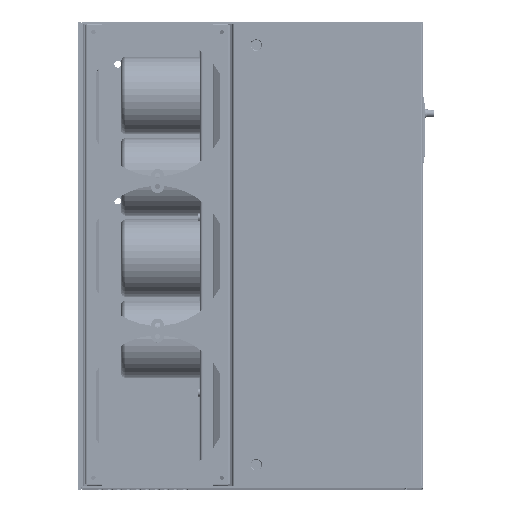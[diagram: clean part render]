
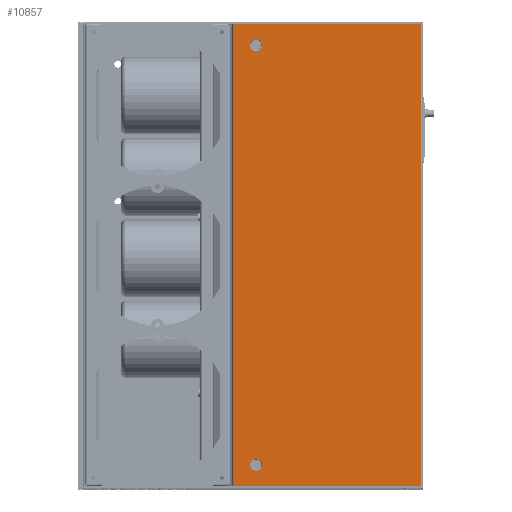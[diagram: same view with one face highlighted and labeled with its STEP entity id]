
A CAD part, top view. The second image highlights one B-rep face of the part: STEP entity #10857.
In plain terms, the highlighted planar face has unit normal (0, 0, 1) as drawn and (0, 0, -1) by its records, which use the part's own axes.
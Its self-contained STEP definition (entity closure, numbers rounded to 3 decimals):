
#10857=ADVANCED_FACE('',(#33106,#33108,#33110),#33112,.T.);
#33106=FACE_BOUND('',#33107,.T.);
#33107=EDGE_LOOP('',(#65041,#65042,#65043,#65044));
#33108=FACE_BOUND('',#33109,.T.);
#33109=EDGE_LOOP('',(#65045));
#33110=FACE_BOUND('',#33111,.T.);
#33111=EDGE_LOOP('',(#65046));
#33112=PLANE('',#33113);
#33113=AXIS2_PLACEMENT_3D('',#33114,#33115,#33116);
#33114=CARTESIAN_POINT('',(0.,34.084,-40.));
#33115=DIRECTION('',(0.,0.,-1.));
#33116=DIRECTION('',(0.,1.,0.));
#65041=ORIENTED_EDGE('',*,*,#84281,.T.);
#65042=ORIENTED_EDGE('',*,*,#84282,.T.);
#65043=ORIENTED_EDGE('',*,*,#84269,.T.);
#65044=ORIENTED_EDGE('',*,*,#84283,.T.);
#65045=ORIENTED_EDGE('',*,*,#84284,.T.);
#65046=ORIENTED_EDGE('',*,*,#84285,.T.);
#84269=EDGE_CURVE('',#96809,#96810,#96811,.T.);
#84281=EDGE_CURVE('',#96829,#96830,#96831,.T.);
#84282=EDGE_CURVE('',#96830,#96809,#96832,.T.);
#84283=EDGE_CURVE('',#96810,#96829,#96833,.T.);
#84284=EDGE_CURVE('',#96834,#96834,#96835,.F.);
#84285=EDGE_CURVE('',#96836,#96836,#96837,.F.);
#96809=VERTEX_POINT('',#121115);
#96810=VERTEX_POINT('',#121116);
#96811=LINE('',#121117,#121118);
#96829=VERTEX_POINT('',#121163);
#96830=VERTEX_POINT('',#121164);
#96831=LINE('',#121165,#121166);
#96832=LINE('',#121168,#121169);
#96833=LINE('',#121171,#121172);
#96834=VERTEX_POINT('',#121174);
#96835=CIRCLE('',#121175,7.);
#96836=VERTEX_POINT('',#121179);
#96837=CIRCLE('',#121180,7.);
#121115=CARTESIAN_POINT('',(-270.5,-2.5,-40.));
#121116=CARTESIAN_POINT('',(270.5,-2.5,-40.));
#121117=CARTESIAN_POINT('',(-270.5,-2.5,-40.));
#121118=VECTOR('',#121119,1.);
#121119=DIRECTION('',(1.,0.,0.));
#121163=CARTESIAN_POINT('',(270.5,-220.5,-40.));
#121164=CARTESIAN_POINT('',(-270.5,-220.5,-40.));
#121165=CARTESIAN_POINT('',(270.5,-220.5,-40.));
#121166=VECTOR('',#121167,1.);
#121167=DIRECTION('',(-1.,0.,0.));
#121168=CARTESIAN_POINT('',(-270.5,-220.5,-40.));
#121169=VECTOR('',#121170,1.);
#121170=DIRECTION('',(0.,1.,0.));
#121171=CARTESIAN_POINT('',(270.5,-2.5,-40.));
#121172=VECTOR('',#121173,1.);
#121173=DIRECTION('',(0.,-1.,0.));
#121174=CARTESIAN_POINT('',(238.5,-195.,-40.));
#121175=AXIS2_PLACEMENT_3D('',#121176,#121177,#121178);
#121176=CARTESIAN_POINT('',(245.5,-195.,-40.));
#121177=DIRECTION('',(0.,0.,-1.));
#121178=DIRECTION('',(-1.,0.,0.));
#121179=CARTESIAN_POINT('',(-252.5,-195.,-40.));
#121180=AXIS2_PLACEMENT_3D('',#121181,#121182,#121183);
#121181=CARTESIAN_POINT('',(-245.5,-195.,-40.));
#121182=DIRECTION('',(0.,0.,-1.));
#121183=DIRECTION('',(-1.,0.,0.));
